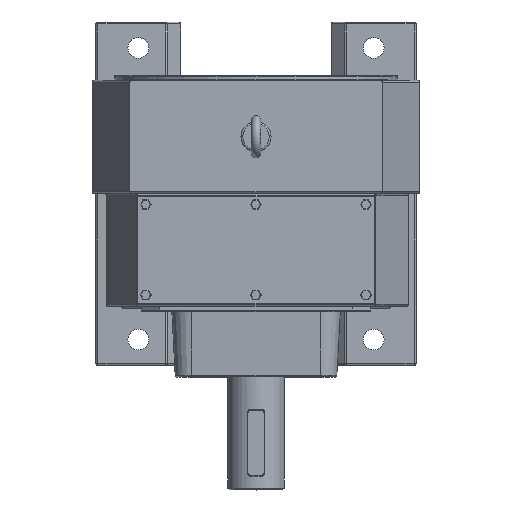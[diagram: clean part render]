
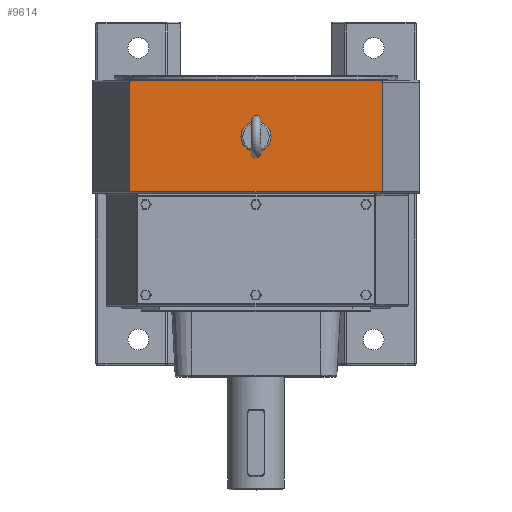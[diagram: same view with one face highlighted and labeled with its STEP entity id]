
A CAD part, top view. The second image highlights one B-rep face of the part: STEP entity #9614.
In plain terms, the highlighted planar face has unit normal (0, 0, 1).
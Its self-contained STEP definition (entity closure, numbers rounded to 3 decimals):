
#896=CARTESIAN_POINT('',(16.,60.,368.));
#897=VERTEX_POINT('',#896);
#898=CARTESIAN_POINT('',(0.,60.0,368.));
#899=DIRECTION('',(0.0,0.0,-1.0));
#900=DIRECTION('',(0.707,0.707,0.0));
#901=AXIS2_PLACEMENT_3D('',#898,#899,#900);
#902=CIRCLE('',#901,16.0);
#903=EDGE_CURVE('',#897,#897,#902,.F.);
#2341=CARTESIAN_POINT('',(-134.,118.,368.0));
#2342=VERTEX_POINT('',#2341);
#2343=CARTESIAN_POINT('',(-131.733,120.,368.0));
#2344=VERTEX_POINT('',#2343);
#2345=CARTESIAN_POINT('',(-131.733,118.,368.0));
#2346=DIRECTION('',(0.0,0.0,-1.0));
#2347=DIRECTION('',(-1.0,0.0,0.0));
#2348=AXIS2_PLACEMENT_3D('',#2345,#2346,#2347);
#2349=ELLIPSE('',#2348,2.267,2.0);
#2350=EDGE_CURVE('',#2342,#2344,#2349,.T.);
#2588=CARTESIAN_POINT('',(131.733,120.,368.));
#2589=VERTEX_POINT('',#2588);
#2590=CARTESIAN_POINT('',(131.733,120.,368.));
#2591=DIRECTION('',(-1.0,0.0,0.0));
#2592=VECTOR('',#2591,263.467);
#2593=LINE('',#2590,#2592);
#2594=EDGE_CURVE('',#2589,#2344,#2593,.T.);
#2845=CARTESIAN_POINT('',(134.,118.,368.0));
#2846=VERTEX_POINT('',#2845);
#2847=CARTESIAN_POINT('',(131.733,118.,368.));
#2848=DIRECTION('',(0.0,0.0,-1.0));
#2849=DIRECTION('',(1.0,0.0,0.0));
#2850=AXIS2_PLACEMENT_3D('',#2847,#2848,#2849);
#2851=ELLIPSE('',#2850,2.267,2.);
#2852=EDGE_CURVE('',#2589,#2846,#2851,.T.);
#3079=CARTESIAN_POINT('',(-134.,2.0,368.0));
#3080=VERTEX_POINT('',#3079);
#3111=CARTESIAN_POINT('',(134.,2.,368.0));
#3112=VERTEX_POINT('',#3111);
#3120=CARTESIAN_POINT('',(134.,2.,368.));
#3121=DIRECTION('',(-1.0,0.0,0.0));
#3122=VECTOR('',#3121,268.);
#3123=LINE('',#3120,#3122);
#3124=EDGE_CURVE('',#3112,#3080,#3123,.T.);
#9588=CARTESIAN_POINT('',(0.0,0.0,368.));
#9589=DIRECTION('',(0.0,0.0,1.0));
#9590=DIRECTION('',(1.0,0.0,0.0));
#9591=AXIS2_PLACEMENT_3D('',#9588,#9589,#9590);
#9592=PLANE('',#9591);
#9593=ORIENTED_EDGE('',*,*,#2350,.F.);
#9594=CARTESIAN_POINT('',(-134.,2.0,368.0));
#9595=DIRECTION('',(0.0,1.0,0.0));
#9596=VECTOR('',#9595,116.);
#9597=LINE('',#9594,#9596);
#9598=EDGE_CURVE('',#3080,#2342,#9597,.T.);
#9599=ORIENTED_EDGE('',*,*,#9598,.F.);
#9600=ORIENTED_EDGE('',*,*,#3124,.F.);
#9601=CARTESIAN_POINT('',(134.,2.,368.0));
#9602=DIRECTION('',(0.0,1.0,0.0));
#9603=VECTOR('',#9602,116.);
#9604=LINE('',#9601,#9603);
#9605=EDGE_CURVE('',#3112,#2846,#9604,.T.);
#9606=ORIENTED_EDGE('',*,*,#9605,.T.);
#9607=ORIENTED_EDGE('',*,*,#2852,.F.);
#9608=ORIENTED_EDGE('',*,*,#2594,.T.);
#9609=EDGE_LOOP('',(#9593,#9599,#9600,#9606,#9607,#9608));
#9610=FACE_OUTER_BOUND('',#9609,.T.);
#9611=ORIENTED_EDGE('',*,*,#903,.F.);
#9612=EDGE_LOOP('',(#9611));
#9613=FACE_BOUND('',#9612,.T.);
#9614=ADVANCED_FACE('',(#9610,#9613),#9592,.T.);
